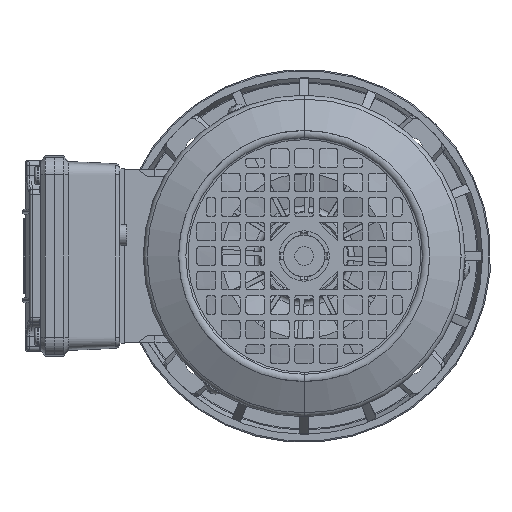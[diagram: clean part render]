
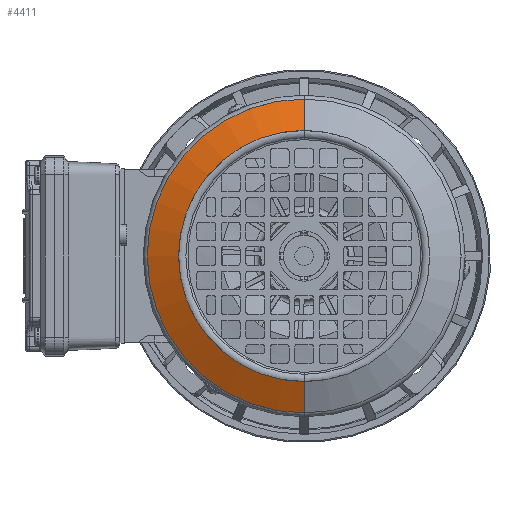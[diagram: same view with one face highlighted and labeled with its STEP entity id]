
A CAD part, left-side view. The second image highlights one B-rep face of the part: STEP entity #4411.
In plain terms, the highlighted conical face has half-angle 64 degrees and reference radius 67.315 mm.
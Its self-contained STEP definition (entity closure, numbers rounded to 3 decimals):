
#1361 = ORIENTED_EDGE ( 'NONE', *, *, #56573, .T. ) ;
#4411 = ADVANCED_FACE ( 'NONE', ( #4572 ), #87336, .T. ) ;
#4572 = FACE_OUTER_BOUND ( 'NONE', #70629, .T. ) ;
#8997 = CARTESIAN_POINT ( 'NONE',  ( -53.887, 0.253, 0. ) ) ;
#12989 = CARTESIAN_POINT ( 'NONE',  ( 67.315, 6.802, 0. ) ) ;
#14243 = ORIENTED_EDGE ( 'NONE', *, *, #104955, .F. ) ;
#17425 = VERTEX_POINT ( 'NONE', #80709 ) ;
#20587 = CIRCLE ( 'NONE', #54827, 53.887 ) ;
#23406 = DIRECTION ( 'NONE',  ( 0., 1., 0. ) ) ;
#30561 = LINE ( 'NONE', #80839, #50562 ) ;
#30747 = CIRCLE ( 'NONE', #51633, 67.315 ) ;
#34499 = VERTEX_POINT ( 'NONE', #12989 ) ;
#34559 = DIRECTION ( 'NONE',  ( 0.899, 0.438, 0. ) ) ;
#38640 = DIRECTION ( 'NONE',  ( -0.899, 0.438, 0. ) ) ;
#42801 = CARTESIAN_POINT ( 'NONE',  ( 53.887, 0.253, 0. ) ) ;
#42905 = DIRECTION ( 'NONE',  ( 0., 1., 0. ) ) ;
#43115 = AXIS2_PLACEMENT_3D ( 'NONE', #85970, #60622, #52030 ) ;
#45109 = ORIENTED_EDGE ( 'NONE', *, *, #75229, .T. ) ;
#50562 = VECTOR ( 'NONE', #38640, 1000. ) ;
#51633 = AXIS2_PLACEMENT_3D ( 'NONE', #93984, #42905, #102600 ) ;
#51970 = EDGE_CURVE ( 'NONE', #17425, #34499, #30747, .T. ) ;
#52030 = DIRECTION ( 'NONE',  ( -1., 0., 0. ) ) ;
#54827 = AXIS2_PLACEMENT_3D ( 'NONE', #74545, #23406, #83076 ) ;
#56573 = EDGE_CURVE ( 'NONE', #85394, #34499, #79463, .T. ) ;
#56796 = VECTOR ( 'NONE', #34559, 1000. ) ;
#60622 = DIRECTION ( 'NONE',  ( 0., 1., 0. ) ) ;
#68341 = VERTEX_POINT ( 'NONE', #8997 ) ;
#70629 = EDGE_LOOP ( 'NONE', ( #45109, #1361, #97286, #14243 ) ) ;
#74545 = CARTESIAN_POINT ( 'NONE',  ( 0., 0.253, 0. ) ) ;
#75229 = EDGE_CURVE ( 'NONE', #68341, #85394, #20587, .T. ) ;
#79463 = LINE ( 'NONE', #85670, #56796 ) ;
#80709 = CARTESIAN_POINT ( 'NONE',  ( -67.315, 6.802, 0. ) ) ;
#80839 = CARTESIAN_POINT ( 'NONE',  ( -67.315, 6.802, 0. ) ) ;
#83076 = DIRECTION ( 'NONE',  ( -1., 0., 0. ) ) ;
#85394 = VERTEX_POINT ( 'NONE', #42801 ) ;
#85670 = CARTESIAN_POINT ( 'NONE',  ( 67.315, 6.802, 0. ) ) ;
#85970 = CARTESIAN_POINT ( 'NONE',  ( 0., 6.802, 0. ) ) ;
#87336 = CONICAL_SURFACE ( 'NONE', #43115, 67.315, 1.117 ) ;
#93984 = CARTESIAN_POINT ( 'NONE',  ( 0., 6.802, 0. ) ) ;
#97286 = ORIENTED_EDGE ( 'NONE', *, *, #51970, .F. ) ;
#102600 = DIRECTION ( 'NONE',  ( -1., 0., 0. ) ) ;
#104955 = EDGE_CURVE ( 'NONE', #68341, #17425, #30561, .T. ) ;
